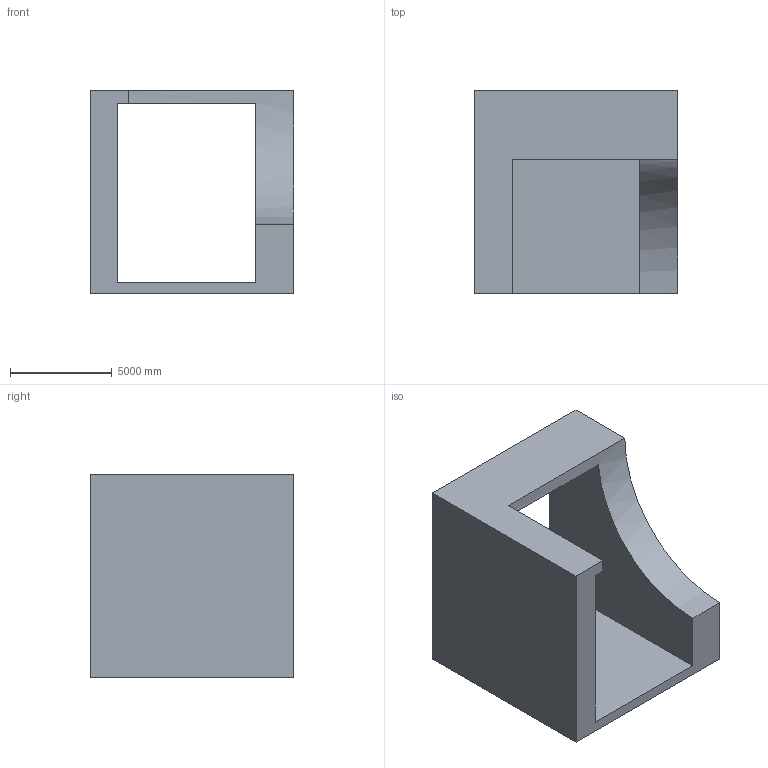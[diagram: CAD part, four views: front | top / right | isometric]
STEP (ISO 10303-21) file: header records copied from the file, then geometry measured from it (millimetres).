
FILE_DESCRIPTION (( 'STEP AP203' ), '1' );
FILE_NAME ('1025.STEP', '2022-08-18T12:28:04', ( 'user' ), ( '' ), 'SwSTEP 2.0', 'SolidWorks 2021', '' );
FILE_SCHEMA (( 'CONFIG_CONTROL_DESIGN' ));
Length unit declared in the file: centimetre
Products named in the file (1): 1025
Bounding box: 10000 x 10000 x 10000 mm (x, y, z)
Volume: 310232803687.4 mm3; surface area: 644719369.8 mm2
Topology: 1 solids, 1 shells, 12 faces, 33 edges, 22 vertices
Faces by surface type: plane 11, cylinder 1
Entity records: 461 total; most frequent: CARTESIAN_POINT 68, ORIENTED_EDGE 66, DIRECTION 62, EDGE_CURVE 33, LINE 30, VECTOR 30, VERTEX_POINT 22, AXIS2_PLACEMENT_3D 16
